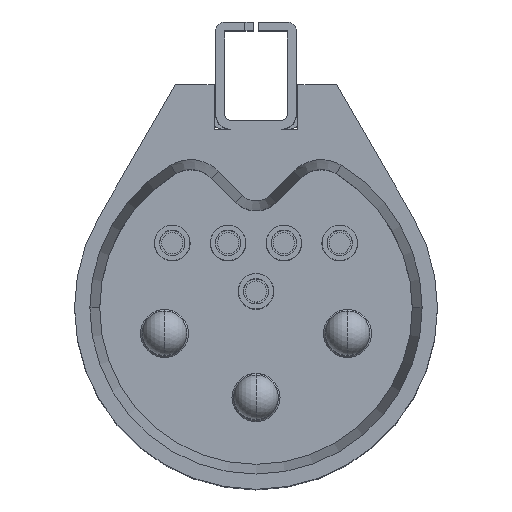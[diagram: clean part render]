
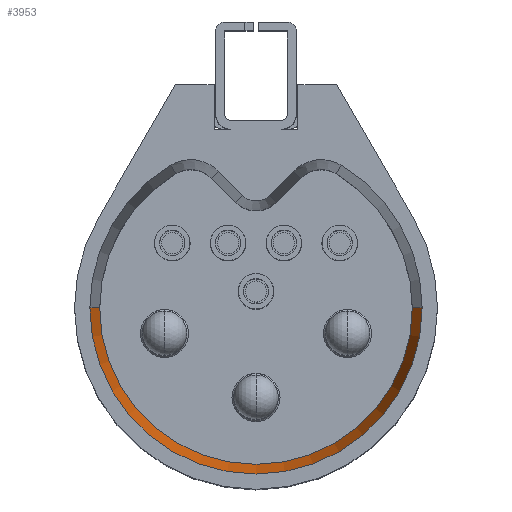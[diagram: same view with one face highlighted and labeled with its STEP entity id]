
A CAD part, top view. The second image highlights one B-rep face of the part: STEP entity #3953.
In plain terms, the highlighted conical face has half-angle 10 degrees and reference radius 3.556 mm.
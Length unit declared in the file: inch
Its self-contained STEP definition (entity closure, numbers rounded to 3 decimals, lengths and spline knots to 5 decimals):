
#248 = CARTESIAN_POINT ( 'NONE',  ( 0., 0., 0.305 ) ) ;
#657 = EDGE_CURVE ( 'NONE', #4478, #5966, #6188, .T. ) ;
#980 = CARTESIAN_POINT ( 'NONE',  ( -0.14, 0., 0.305 ) ) ;
#1093 = EDGE_CURVE ( 'NONE', #3988, #3354, #5630, .T. ) ;
#1795 = DIRECTION ( 'NONE',  ( -0.174, 0., 0.985 ) ) ;
#1797 = ORIENTED_EDGE ( 'NONE', *, *, #1093, .F. ) ;
#2022 = FACE_OUTER_BOUND ( 'NONE', #9229, .T. ) ;
#2301 = CARTESIAN_POINT ( 'NONE',  ( 0.14, 0., 0.305 ) ) ;
#2767 = CONICAL_SURFACE ( 'NONE', #5945, 0.14, 0.175 ) ;
#3098 = CARTESIAN_POINT ( 'NONE',  ( 0., 0., 0.305 ) ) ;
#3218 = DIRECTION ( 'NONE',  ( 1., 0., 0. ) ) ;
#3354 = VERTEX_POINT ( 'NONE', #6577 ) ;
#3934 = ORIENTED_EDGE ( 'NONE', *, *, #657, .T. ) ;
#3953 = ADVANCED_FACE ( 'NONE', ( #2022 ), #2767, .F. ) ;
#3988 = VERTEX_POINT ( 'NONE', #2301 ) ;
#4153 = CIRCLE ( 'NONE', #5576, 0.14 ) ;
#4478 = VERTEX_POINT ( 'NONE', #980 ) ;
#4500 = DIRECTION ( 'NONE',  ( 1., 0., 0. ) ) ;
#4535 = CARTESIAN_POINT ( 'NONE',  ( -0.14882, 0., 0.355 ) ) ;
#5044 = AXIS2_PLACEMENT_3D ( 'NONE', #7629, #8347, #6039 ) ;
#5403 = VECTOR ( 'NONE', #8816, 39.37008 ) ;
#5576 = AXIS2_PLACEMENT_3D ( 'NONE', #3098, #5968, #3218 ) ;
#5630 = LINE ( 'NONE', #8846, #5403 ) ;
#5945 = AXIS2_PLACEMENT_3D ( 'NONE', #248, #6565, #4500 ) ;
#5950 = CARTESIAN_POINT ( 'NONE',  ( -0.14, 0., 0.305 ) ) ;
#5966 = VERTEX_POINT ( 'NONE', #4535 ) ;
#5968 = DIRECTION ( 'NONE',  ( 0., 0., 1. ) ) ;
#6039 = DIRECTION ( 'NONE',  ( 1., 0., 0. ) ) ;
#6127 = ORIENTED_EDGE ( 'NONE', *, *, #9179, .F. ) ;
#6188 = LINE ( 'NONE', #5950, #7636 ) ;
#6472 = CIRCLE ( 'NONE', #5044, 0.14882 ) ;
#6565 = DIRECTION ( 'NONE',  ( 0., 0., 1. ) ) ;
#6577 = CARTESIAN_POINT ( 'NONE',  ( 0.14882, 0., 0.355 ) ) ;
#7550 = EDGE_CURVE ( 'NONE', #4478, #3988, #4153, .T. ) ;
#7629 = CARTESIAN_POINT ( 'NONE',  ( 0., 0., 0.355 ) ) ;
#7636 = VECTOR ( 'NONE', #1795, 39.37008 ) ;
#8347 = DIRECTION ( 'NONE',  ( 0., 0., -1. ) ) ;
#8475 = ORIENTED_EDGE ( 'NONE', *, *, #7550, .F. ) ;
#8816 = DIRECTION ( 'NONE',  ( 0.174, 0., 0.985 ) ) ;
#8846 = CARTESIAN_POINT ( 'NONE',  ( 0.14, 0., 0.305 ) ) ;
#9179 = EDGE_CURVE ( 'NONE', #3354, #5966, #6472, .T. ) ;
#9229 = EDGE_LOOP ( 'NONE', ( #8475, #3934, #6127, #1797 ) ) ;
